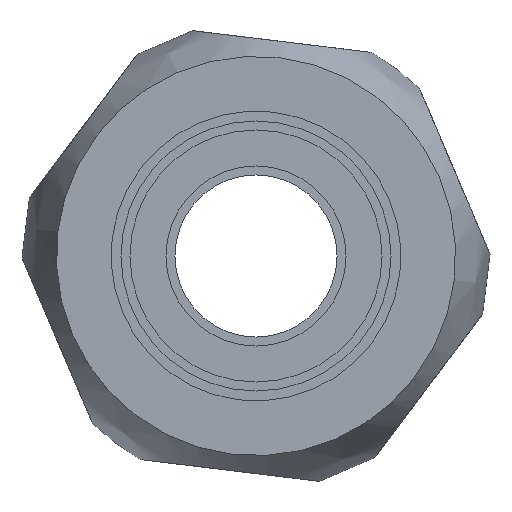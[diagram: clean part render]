
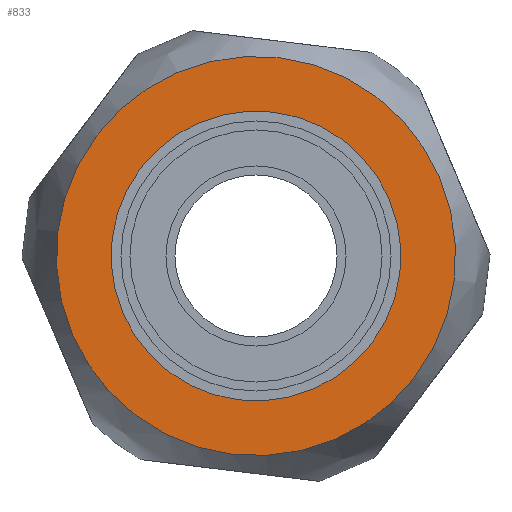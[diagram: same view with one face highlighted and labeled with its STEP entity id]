
A CAD part, left-side view. The second image highlights one B-rep face of the part: STEP entity #833.
In plain terms, the highlighted planar face has unit normal (-1, 0, 0).
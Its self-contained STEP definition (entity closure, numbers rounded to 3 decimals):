
#157=FACE_BOUND('',#246,.T.);
#186=FACE_OUTER_BOUND('',#245,.T.);
#245=EDGE_LOOP('',(#661,#662));
#246=EDGE_LOOP('',(#663,#664));
#307=CIRCLE('',#1001,11.089);
#308=CIRCLE('',#1002,11.089);
#311=CIRCLE('',#1007,8.05);
#312=CIRCLE('',#1008,8.05);
#383=VERTEX_POINT('',#1813);
#384=VERTEX_POINT('',#1817);
#387=VERTEX_POINT('',#1826);
#388=VERTEX_POINT('',#1828);
#482=EDGE_CURVE('',#383,#384,#307,.T.);
#483=EDGE_CURVE('',#384,#383,#308,.T.);
#487=EDGE_CURVE('',#388,#387,#311,.T.);
#488=EDGE_CURVE('',#387,#388,#312,.T.);
#661=ORIENTED_EDGE('',*,*,#483,.F.);
#662=ORIENTED_EDGE('',*,*,#482,.F.);
#663=ORIENTED_EDGE('',*,*,#487,.T.);
#664=ORIENTED_EDGE('',*,*,#488,.T.);
#798=PLANE('',#1009);
#833=ADVANCED_FACE('',(#186,#157),#798,.T.);
#1001=AXIS2_PLACEMENT_3D('',#1818,#1188,#1189);
#1002=AXIS2_PLACEMENT_3D('',#1819,#1190,#1191);
#1007=AXIS2_PLACEMENT_3D('',#1829,#1201,#1202);
#1008=AXIS2_PLACEMENT_3D('',#1830,#1203,#1204);
#1009=AXIS2_PLACEMENT_3D('',#1831,#1205,#1206);
#1188=DIRECTION('center_axis',(1.,0.,0.));
#1189=DIRECTION('ref_axis',(0.,1.,0.));
#1190=DIRECTION('center_axis',(1.,0.,0.));
#1191=DIRECTION('ref_axis',(0.,1.,0.));
#1201=DIRECTION('center_axis',(1.,0.,0.));
#1202=DIRECTION('ref_axis',(0.,1.,0.));
#1203=DIRECTION('center_axis',(1.,0.,0.));
#1204=DIRECTION('ref_axis',(0.,1.,0.));
#1205=DIRECTION('center_axis',(-1.,0.,0.));
#1206=DIRECTION('ref_axis',(0.,0.,1.));
#1813=CARTESIAN_POINT('',(0.,0.,11.089));
#1817=CARTESIAN_POINT('',(0.,11.089,0.));
#1818=CARTESIAN_POINT('Origin',(0.,0.,0.));
#1819=CARTESIAN_POINT('Origin',(0.,0.,0.));
#1826=CARTESIAN_POINT('',(0.,-8.05,0.));
#1828=CARTESIAN_POINT('',(0.,8.05,0.));
#1829=CARTESIAN_POINT('Origin',(0.,0.,0.));
#1830=CARTESIAN_POINT('Origin',(0.,0.,0.));
#1831=CARTESIAN_POINT('Origin',(0.,9.569,0.));
